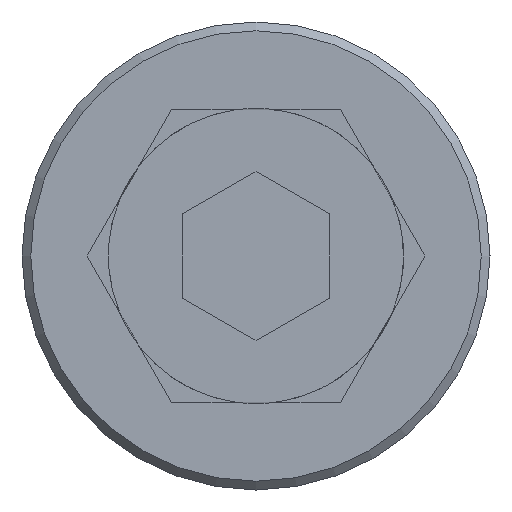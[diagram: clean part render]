
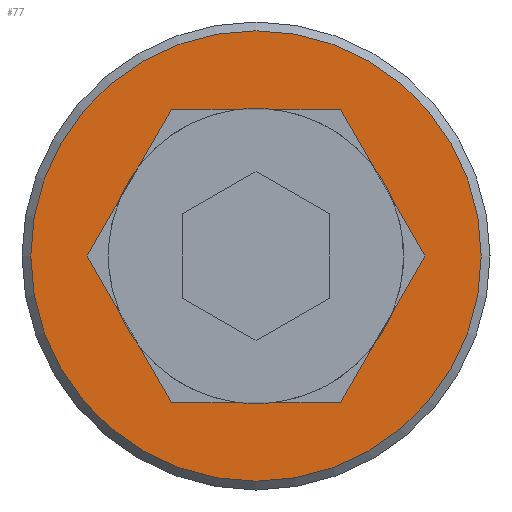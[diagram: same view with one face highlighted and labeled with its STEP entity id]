
A CAD part, left-side view. The second image highlights one B-rep face of the part: STEP entity #77.
In plain terms, the highlighted planar face has unit normal (-1, 0, 0).
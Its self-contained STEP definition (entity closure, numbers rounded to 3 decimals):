
#77 = ADVANCED_FACE( '', ( #182, #183 ), #184, .F. );
#182 = FACE_OUTER_BOUND( '', #329, .T. );
#183 = FACE_BOUND( '', #330, .T. );
#184 = PLANE( '', #331 );
#329 = EDGE_LOOP( '', ( #498 ) );
#330 = EDGE_LOOP( '', ( #499, #500, #501, #502, #503, #504, #505, #506, #507, #508, #509, #510, #511, #512, #513, #514, #515, #516 ) );
#331 = AXIS2_PLACEMENT_3D( '', #517, #518, #519 );
#498 = ORIENTED_EDGE( '', *, *, #816, .F. );
#499 = ORIENTED_EDGE( '', *, *, #817, .T. );
#500 = ORIENTED_EDGE( '', *, *, #818, .T. );
#501 = ORIENTED_EDGE( '', *, *, #819, .T. );
#502 = ORIENTED_EDGE( '', *, *, #820, .T. );
#503 = ORIENTED_EDGE( '', *, *, #821, .T. );
#504 = ORIENTED_EDGE( '', *, *, #822, .T. );
#505 = ORIENTED_EDGE( '', *, *, #823, .T. );
#506 = ORIENTED_EDGE( '', *, *, #799, .T. );
#507 = ORIENTED_EDGE( '', *, *, #824, .T. );
#508 = ORIENTED_EDGE( '', *, *, #825, .T. );
#509 = ORIENTED_EDGE( '', *, *, #826, .T. );
#510 = ORIENTED_EDGE( '', *, *, #827, .T. );
#511 = ORIENTED_EDGE( '', *, *, #828, .T. );
#512 = ORIENTED_EDGE( '', *, *, #829, .T. );
#513 = ORIENTED_EDGE( '', *, *, #830, .T. );
#514 = ORIENTED_EDGE( '', *, *, #831, .T. );
#515 = ORIENTED_EDGE( '', *, *, #832, .T. );
#516 = ORIENTED_EDGE( '', *, *, #833, .T. );
#517 = CARTESIAN_POINT( '', ( 0., 0., 0. ) );
#518 = DIRECTION( '', ( 1., 0., 0. ) );
#519 = DIRECTION( '', ( 0., 0., -1. ) );
#799 = EDGE_CURVE( '', #934, #935, #936, .T. );
#816 = EDGE_CURVE( '', #963, #963, #964, .T. );
#817 = EDGE_CURVE( '', #965, #966, #967, .T. );
#818 = EDGE_CURVE( '', #966, #968, #969, .T. );
#819 = EDGE_CURVE( '', #968, #970, #971, .T. );
#820 = EDGE_CURVE( '', #970, #972, #973, .T. );
#821 = EDGE_CURVE( '', #972, #974, #975, .T. );
#822 = EDGE_CURVE( '', #974, #976, #977, .T. );
#823 = EDGE_CURVE( '', #976, #934, #978, .T. );
#824 = EDGE_CURVE( '', #935, #979, #980, .T. );
#825 = EDGE_CURVE( '', #979, #981, #982, .T. );
#826 = EDGE_CURVE( '', #981, #983, #984, .T. );
#827 = EDGE_CURVE( '', #983, #985, #986, .T. );
#828 = EDGE_CURVE( '', #985, #987, #988, .T. );
#829 = EDGE_CURVE( '', #987, #989, #990, .T. );
#830 = EDGE_CURVE( '', #989, #991, #992, .T. );
#831 = EDGE_CURVE( '', #991, #993, #994, .T. );
#832 = EDGE_CURVE( '', #993, #995, #996, .T. );
#833 = EDGE_CURVE( '', #995, #965, #997, .T. );
#934 = VERTEX_POINT( '', #1130 );
#935 = VERTEX_POINT( '', #1131 );
#936 = LINE( '', #1132, #1133 );
#963 = VERTEX_POINT( '', #1170 );
#964 = CIRCLE( '', #1171, 7.7 );
#965 = VERTEX_POINT( '', #1172 );
#966 = VERTEX_POINT( '', #1173 );
#967 = CIRCLE( '', #1174, 5.05 );
#968 = VERTEX_POINT( '', #1175 );
#969 = LINE( '', #1176, #1177 );
#970 = VERTEX_POINT( '', #1178 );
#971 = LINE( '', #1179, #1180 );
#972 = VERTEX_POINT( '', #1181 );
#973 = CIRCLE( '', #1182, 5.05 );
#974 = VERTEX_POINT( '', #1183 );
#975 = LINE( '', #1184, #1185 );
#976 = VERTEX_POINT( '', #1186 );
#977 = LINE( '', #1187, #1188 );
#978 = CIRCLE( '', #1189, 5.05 );
#979 = VERTEX_POINT( '', #1190 );
#980 = LINE( '', #1191, #1192 );
#981 = VERTEX_POINT( '', #1193 );
#982 = CIRCLE( '', #1194, 5.05 );
#983 = VERTEX_POINT( '', #1195 );
#984 = LINE( '', #1196, #1197 );
#985 = VERTEX_POINT( '', #1198 );
#986 = LINE( '', #1199, #1200 );
#987 = VERTEX_POINT( '', #1201 );
#988 = CIRCLE( '', #1202, 5.05 );
#989 = VERTEX_POINT( '', #1203 );
#990 = LINE( '', #1204, #1205 );
#991 = VERTEX_POINT( '', #1206 );
#992 = LINE( '', #1207, #1208 );
#993 = VERTEX_POINT( '', #1209 );
#994 = CIRCLE( '', #1210, 5.05 );
#995 = VERTEX_POINT( '', #1211 );
#996 = LINE( '', #1212, #1213 );
#997 = LINE( '', #1214, #1215 );
#1130 = CARTESIAN_POINT( '', ( 0., 4.685, -1.886 ) );
#1131 = CARTESIAN_POINT( '', ( 0., 5.774, 0. ) );
#1132 = CARTESIAN_POINT( '', ( 0., 2.887, -5. ) );
#1133 = VECTOR( '', #1363, 1000. );
#1170 = CARTESIAN_POINT( '', ( 0., 0., -7.7 ) );
#1171 = AXIS2_PLACEMENT_3D( '', #1380, #1381, #1382 );
#1172 = CARTESIAN_POINT( '', ( 0., -4.685, -1.886 ) );
#1173 = CARTESIAN_POINT( '', ( 0., -3.976, -3.114 ) );
#1174 = AXIS2_PLACEMENT_3D( '', #1383, #1384, #1385 );
#1175 = CARTESIAN_POINT( '', ( 0., -2.887, -5. ) );
#1176 = CARTESIAN_POINT( '', ( 0., -5.774, 0. ) );
#1177 = VECTOR( '', #1386, 1000. );
#1178 = CARTESIAN_POINT( '', ( 0., -0.709, -5. ) );
#1179 = CARTESIAN_POINT( '', ( 0., -2.887, -5. ) );
#1180 = VECTOR( '', #1387, 1000. );
#1181 = CARTESIAN_POINT( '', ( 0., 0.709, -5. ) );
#1182 = AXIS2_PLACEMENT_3D( '', #1388, #1389, #1390 );
#1183 = CARTESIAN_POINT( '', ( 0., 2.887, -5. ) );
#1184 = CARTESIAN_POINT( '', ( 0., -2.887, -5. ) );
#1185 = VECTOR( '', #1391, 1000. );
#1186 = CARTESIAN_POINT( '', ( 0., 3.976, -3.114 ) );
#1187 = CARTESIAN_POINT( '', ( 0., 2.887, -5. ) );
#1188 = VECTOR( '', #1392, 1000. );
#1189 = AXIS2_PLACEMENT_3D( '', #1393, #1394, #1395 );
#1190 = CARTESIAN_POINT( '', ( 0., 4.685, 1.886 ) );
#1191 = CARTESIAN_POINT( '', ( 0., 5.774, 0. ) );
#1192 = VECTOR( '', #1396, 1000. );
#1193 = CARTESIAN_POINT( '', ( 0., 3.976, 3.114 ) );
#1194 = AXIS2_PLACEMENT_3D( '', #1397, #1398, #1399 );
#1195 = CARTESIAN_POINT( '', ( 0., 2.887, 5. ) );
#1196 = CARTESIAN_POINT( '', ( 0., 5.774, 0. ) );
#1197 = VECTOR( '', #1400, 1000. );
#1198 = CARTESIAN_POINT( '', ( 0., 0.709, 5. ) );
#1199 = CARTESIAN_POINT( '', ( 0., 2.887, 5. ) );
#1200 = VECTOR( '', #1401, 1000. );
#1201 = CARTESIAN_POINT( '', ( 0., -0.709, 5. ) );
#1202 = AXIS2_PLACEMENT_3D( '', #1402, #1403, #1404 );
#1203 = CARTESIAN_POINT( '', ( 0., -2.887, 5. ) );
#1204 = CARTESIAN_POINT( '', ( 0., 2.887, 5. ) );
#1205 = VECTOR( '', #1405, 1000. );
#1206 = CARTESIAN_POINT( '', ( 0., -3.976, 3.114 ) );
#1207 = CARTESIAN_POINT( '', ( 0., -2.887, 5. ) );
#1208 = VECTOR( '', #1406, 1000. );
#1209 = CARTESIAN_POINT( '', ( 0., -4.685, 1.886 ) );
#1210 = AXIS2_PLACEMENT_3D( '', #1407, #1408, #1409 );
#1211 = CARTESIAN_POINT( '', ( 0., -5.774, 0. ) );
#1212 = CARTESIAN_POINT( '', ( 0., -2.887, 5. ) );
#1213 = VECTOR( '', #1410, 1000. );
#1214 = CARTESIAN_POINT( '', ( 0., -5.774, 0. ) );
#1215 = VECTOR( '', #1411, 1000. );
#1363 = DIRECTION( '', ( 0., 0.5, 0.866 ) );
#1380 = CARTESIAN_POINT( '', ( 0., 0., 0. ) );
#1381 = DIRECTION( '', ( 1., 0., 0. ) );
#1382 = DIRECTION( '', ( 0., 0., -1. ) );
#1383 = CARTESIAN_POINT( '', ( 0., 0., 0. ) );
#1384 = DIRECTION( '', ( 1., 0., 0. ) );
#1385 = DIRECTION( '', ( 0., 0., -1. ) );
#1386 = DIRECTION( '', ( 0., 0.5, -0.866 ) );
#1387 = DIRECTION( '', ( 0., 1., 0. ) );
#1388 = CARTESIAN_POINT( '', ( 0., 0., 0. ) );
#1389 = DIRECTION( '', ( 1., 0., 0. ) );
#1390 = DIRECTION( '', ( 0., 0., -1. ) );
#1391 = DIRECTION( '', ( 0., 1., 0. ) );
#1392 = DIRECTION( '', ( 0., 0.5, 0.866 ) );
#1393 = CARTESIAN_POINT( '', ( 0., 0., 0. ) );
#1394 = DIRECTION( '', ( 1., 0., 0. ) );
#1395 = DIRECTION( '', ( 0., 0., -1. ) );
#1396 = DIRECTION( '', ( 0., -0.5, 0.866 ) );
#1397 = CARTESIAN_POINT( '', ( 0., 0., 0. ) );
#1398 = DIRECTION( '', ( 1., 0., 0. ) );
#1399 = DIRECTION( '', ( 0., 0., -1. ) );
#1400 = DIRECTION( '', ( 0., -0.5, 0.866 ) );
#1401 = DIRECTION( '', ( 0., -1., 0. ) );
#1402 = CARTESIAN_POINT( '', ( 0., 0., 0. ) );
#1403 = DIRECTION( '', ( 1., 0., 0. ) );
#1404 = DIRECTION( '', ( 0., 0., -1. ) );
#1405 = DIRECTION( '', ( 0., -1., 0. ) );
#1406 = DIRECTION( '', ( 0., -0.5, -0.866 ) );
#1407 = CARTESIAN_POINT( '', ( 0., 0., 0. ) );
#1408 = DIRECTION( '', ( 1., 0., 0. ) );
#1409 = DIRECTION( '', ( 0., 0., -1. ) );
#1410 = DIRECTION( '', ( 0., -0.5, -0.866 ) );
#1411 = DIRECTION( '', ( 0., 0.5, -0.866 ) );
